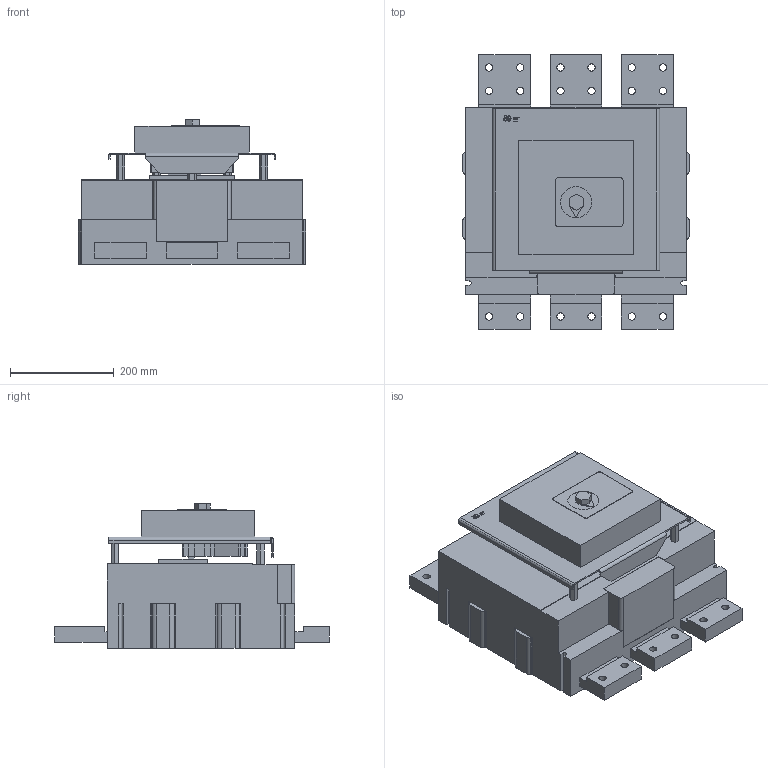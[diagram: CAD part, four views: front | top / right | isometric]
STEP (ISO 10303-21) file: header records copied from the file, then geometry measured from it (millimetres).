
FILE_DESCRIPTION (( 'STEP AP214' ), '1' );
FILE_NAME ('ÂÀ 53(55)-43 ñ ýëåêòðîìàãíèòíûì ïðèâîäîì 2000À.STEP', '2023-02-09T07:05:25', ( '' ), ( '' ), 'SwSTEP 2.0', 'SolidWorks 2018', '' );
FILE_SCHEMA (( 'AUTOMOTIVE_DESIGN' ));
Length unit declared in the file: millimetre
Products named in the file (1): ÂÀ 53(55)-43 ñ ýëåêòðîìàãíèòíûì ïðèâîäîì 2000À
Bounding box: 438 x 530 x 279.3 mm (x, y, z)
Volume: 29311191 mm3; surface area: 1083352.4 mm2
Topology: 1 solids, 1 shells, 282 faces, 849 edges, 588 vertices
Faces by surface type: plane 222, cylinder 58, bspline 2
Full cylindrical faces by diameter (mm): 14 x18, 60 x1
Entity records: 9834 total; most frequent: CARTESIAN_POINT 2139, ORIENTED_EDGE 1624, DIRECTION 1453, EDGE_CURVE 812, VECTOR 659, LINE 659, VERTEX_POINT 570, AXIS2_PLACEMENT_3D 397
